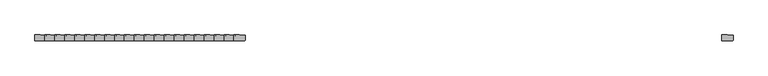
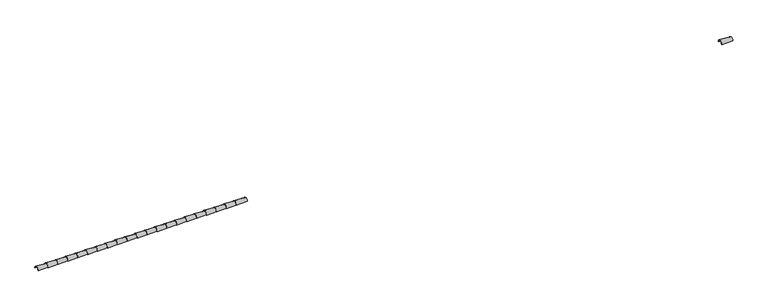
"""IFC4 building model written with IfcOpenShell, lengths in millimetres: proxy geometry, Tuile de faitage & aretier : Tuile de faitage & aretier."""

from ifc_helpers import new_model, si_unit, frame, origin, place, context, project, spatial, polyline, circle_curve, source, transform, mapped, element, save
from ifc_brep_helpers import plane_surface, revolved_surface, advanced_brep


def generic_models_be786a47(model_context):
    return source(origin(), model_context, "Body", "AdvancedBrep", [
        advanced_brep(
        [(7353.6231884, -80.0, 0.0), (7353.6231884, -70.0, 0.0), (7353.6231884, 70.0, 0.0), (7353.6231884, 80.0, 0.0), (6953.6231884, -100.0, 0.0), (6953.6231884, 100.0, 0.0), (6953.6231884, 90.0, 0.0), (6953.6231884, -90.0, 0.0)],
        [
            (0, 1),
            (1, 2, circle_curve(frame((7353.6231884, 0.0, 0.0), z_axis=(-1.0, 0.0, 0.0), x_axis=(0.0, -1.0, 0.0)), 70.0)),
            (2, 3),
            (3, 0, circle_curve(frame((7353.6231884, 0.0, 0.0), z_axis=(1.0, 0.0, 0.0), x_axis=(0.0, 1.0, 0.0)), 80.0)),
            (4, 5, circle_curve(frame((6953.6231884, 0.0, 0.0), z_axis=(-1.0, 0.0, 0.0), x_axis=(0.0, 1.0, 0.0)), 100.0)),
            (5, 6),
            (6, 7, circle_curve(frame((6953.6231884, 0.0, 0.0), z_axis=(1.0, 0.0, 0.0), x_axis=(0.0, -1.0, 0.0)), 90.0)),
            (7, 4),
            (7, 1),
            (0, 4),
            (6, 2),
            (5, 3),
        ],
        [
            plane_surface(frame((7353.6231884, 0.0, 0.0), z_axis=(1.0, 0.0, 0.0), x_axis=(0.0, 1.0, -1.4291631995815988e-12))),
            plane_surface(frame((6953.6231884, 0.0, 0.0), z_axis=(-1.0, 0.0, 0.0), x_axis=(0.0, 1.0, -1.4291631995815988e-12))),
            plane_surface(frame((6953.6231884, -95.0, 0.0), z_axis=(0.0, -1.4291631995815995e-12, -1.0), x_axis=(0.0, 1.0, -1.4291631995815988e-12))),
            revolved_surface(polyline([(6953.6231884, -90.0, 0.0), (7353.6231884, -70.00000000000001, 0.0)]), (8753.6231884, 0.0, 0.0), (-1.0, 0.0, 0.0)),
            plane_surface(frame((6953.6231884, 95.0, 0.0), z_axis=(0.0, 0.0, -1.0), x_axis=(0.0, 1.0, 0.0))),
            revolved_surface(polyline([(7353.6231884, 80.0, 0.0), (6953.6231884, 100.0, 0.0)]), (8953.6231884, 0.0, 0.0), (-1.0, 0.0, 0.0)),
        ],
        [
            (0, [[1, 2, 3, 4]]),
            (1, [[5, 6, 7, 8]]),
            (2, [[-8, 9, -1, 10]]),
            (3, [[-7, 11, -2, -9]]),
            (4, [[-6, 12, -3, -11]]),
            (5, [[-5, -10, -4, -12]]),
        ],
    ),
        advanced_brep(
        [(7005.942029, -80.0, 0.0), (7005.942029, -70.0, 0.0), (7005.942029, 70.0, 0.0), (7005.942029, 80.0, 0.0), (6605.942029, -100.0, 0.0), (6605.942029, 100.0, 0.0), (6605.942029, 90.0, 0.0), (6605.942029, -90.0, 0.0)],
        [
            (0, 1),
            (1, 2, circle_curve(frame((7005.942029, 0.0, 0.0), z_axis=(-1.0, 0.0, 0.0), x_axis=(0.0, -1.0, 0.0)), 70.0)),
            (2, 3),
            (3, 0, circle_curve(frame((7005.942029, 0.0, 0.0), z_axis=(1.0, 0.0, 0.0), x_axis=(0.0, 1.0, 0.0)), 80.0)),
            (4, 5, circle_curve(frame((6605.942029, 0.0, 0.0), z_axis=(-1.0, 0.0, 0.0), x_axis=(0.0, 1.0, 0.0)), 100.0)),
            (5, 6),
            (6, 7, circle_curve(frame((6605.942029, 0.0, 0.0), z_axis=(1.0, 0.0, 0.0), x_axis=(0.0, -1.0, 0.0)), 90.0)),
            (7, 4),
            (7, 1),
            (0, 4),
            (6, 2),
            (5, 3),
        ],
        [
            plane_surface(frame((7005.942029, 0.0, 0.0), z_axis=(1.0, 0.0, 0.0), x_axis=(0.0, 1.0, -1.4291631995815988e-12))),
            plane_surface(frame((6605.942029, 0.0, 0.0), z_axis=(-1.0, 0.0, 0.0), x_axis=(0.0, 1.0, -1.4291631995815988e-12))),
            plane_surface(frame((6605.942029, -95.0, 0.0), z_axis=(0.0, -1.4291631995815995e-12, -1.0), x_axis=(0.0, 1.0, -1.4291631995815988e-12))),
            revolved_surface(polyline([(6605.942029, -90.0, 0.0), (7005.942029, -70.0, 0.0)]), (8405.942029, 0.0, 0.0), (-1.0, 0.0, 0.0)),
            plane_surface(frame((6605.942029, 95.0, 0.0), z_axis=(0.0, 0.0, -1.0), x_axis=(0.0, 1.0, 0.0))),
            revolved_surface(polyline([(7005.942029, 80.0, 0.0), (6605.942029, 100.0, 0.0)]), (8605.942029, 0.0, 0.0), (-1.0, 0.0, 0.0)),
        ],
        [
            (0, [[1, 2, 3, 4]]),
            (1, [[5, 6, 7, 8]]),
            (2, [[-8, 9, -1, 10]]),
            (3, [[-7, 11, -2, -9]]),
            (4, [[-6, 12, -3, -11]]),
            (5, [[-5, -10, -4, -12]]),
        ],
    ),
        advanced_brep(
        [(6658.2608696, -80.0, 0.0), (6658.2608696, -70.0, 0.0), (6658.2608696, 70.0, 0.0), (6658.2608696, 80.0, 0.0), (6258.2608696, -100.0, 0.0), (6258.2608696, 100.0, 0.0), (6258.2608696, 90.0, 0.0), (6258.2608696, -90.0, 0.0)],
        [
            (0, 1),
            (1, 2, circle_curve(frame((6658.2608696, 0.0, 0.0), z_axis=(-1.0, 0.0, 0.0), x_axis=(0.0, -1.0, 0.0)), 70.0)),
            (2, 3),
            (3, 0, circle_curve(frame((6658.2608696, 0.0, 0.0), z_axis=(1.0, 0.0, 0.0), x_axis=(0.0, 1.0, 0.0)), 80.0)),
            (4, 5, circle_curve(frame((6258.2608696, 0.0, 0.0), z_axis=(-1.0, 0.0, 0.0), x_axis=(0.0, 1.0, 0.0)), 100.0)),
            (5, 6),
            (6, 7, circle_curve(frame((6258.2608696, 0.0, 0.0), z_axis=(1.0, 0.0, 0.0), x_axis=(0.0, -1.0, 0.0)), 90.0)),
            (7, 4),
            (7, 1),
            (0, 4),
            (6, 2),
            (5, 3),
        ],
        [
            plane_surface(frame((6658.2608696, 0.0, 0.0), z_axis=(1.0, 0.0, 0.0), x_axis=(0.0, 1.0, -1.4291631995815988e-12))),
            plane_surface(frame((6258.2608696, 0.0, 0.0), z_axis=(-1.0, 0.0, 0.0), x_axis=(0.0, 1.0, -1.4291631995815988e-12))),
            plane_surface(frame((6258.2608696, -95.0, 0.0), z_axis=(0.0, -1.4291631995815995e-12, -1.0), x_axis=(0.0, 1.0, -1.4291631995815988e-12))),
            revolved_surface(polyline([(6258.2608696, -90.0, 0.0), (6658.2608696, -70.0, 0.0)]), (8058.2608696, 0.0, 0.0), (-1.0, 0.0, 0.0)),
            plane_surface(frame((6258.2608696, 95.0, 0.0), z_axis=(0.0, 0.0, -1.0), x_axis=(0.0, 1.0, 0.0))),
            revolved_surface(polyline([(6658.2608696, 80.0, 0.0), (6258.2608696, 100.0, 0.0)]), (8258.2608696, 0.0, 0.0), (-1.0, 0.0, 0.0)),
        ],
        [
            (0, [[1, 2, 3, 4]]),
            (1, [[5, 6, 7, 8]]),
            (2, [[-8, 9, -1, 10]]),
            (3, [[-7, 11, -2, -9]]),
            (4, [[-6, 12, -3, -11]]),
            (5, [[-5, -10, -4, -12]]),
        ],
    ),
        advanced_brep(
        [(6310.5797101, -80.0, 0.0), (6310.5797101, -70.0, 0.0), (6310.5797101, 70.0, 0.0), (6310.5797101, 80.0, 0.0), (5910.5797101, -100.0, 0.0), (5910.5797101, 100.0, 0.0), (5910.5797101, 90.0, 0.0), (5910.5797101, -90.0, 0.0)],
        [
            (0, 1),
            (1, 2, circle_curve(frame((6310.5797101, 0.0, 0.0), z_axis=(-1.0, 0.0, 0.0), x_axis=(0.0, -1.0, 0.0)), 70.0)),
            (2, 3),
            (3, 0, circle_curve(frame((6310.5797101, 0.0, 0.0), z_axis=(1.0, 0.0, 0.0), x_axis=(0.0, 1.0, 0.0)), 80.0)),
            (4, 5, circle_curve(frame((5910.5797101, 0.0, 0.0), z_axis=(-1.0, 0.0, 0.0), x_axis=(0.0, 1.0, 0.0)), 100.0)),
            (5, 6),
            (6, 7, circle_curve(frame((5910.5797101, 0.0, 0.0), z_axis=(1.0, 0.0, 0.0), x_axis=(0.0, -1.0, 0.0)), 90.0)),
            (7, 4),
            (7, 1),
            (0, 4),
            (6, 2),
            (5, 3),
        ],
        [
            plane_surface(frame((6310.5797101, 0.0, 0.0), z_axis=(1.0, 0.0, 0.0), x_axis=(0.0, 1.0, -1.4291631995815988e-12))),
            plane_surface(frame((5910.5797101, 0.0, 0.0), z_axis=(-1.0, 0.0, 0.0), x_axis=(0.0, 1.0, -1.4291631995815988e-12))),
            plane_surface(frame((5910.5797101, -95.0, 0.0), z_axis=(0.0, -1.4291631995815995e-12, -1.0), x_axis=(0.0, 1.0, -1.4291631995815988e-12))),
            revolved_surface(polyline([(5910.5797101, -90.0, 0.0), (6310.5797101, -70.0, 0.0)]), (7710.5797101, 0.0, 0.0), (-1.0, 0.0, 0.0)),
            plane_surface(frame((5910.5797101, 95.0, 0.0), z_axis=(0.0, 0.0, -1.0), x_axis=(0.0, 1.0, 0.0))),
            revolved_surface(polyline([(6310.5797101, 80.0, 0.0), (5910.5797101, 100.0, 0.0)]), (7910.5797101, 0.0, 0.0), (-1.0, 0.0, 0.0)),
        ],
        [
            (0, [[1, 2, 3, 4]]),
            (1, [[5, 6, 7, 8]]),
            (2, [[-8, 9, -1, 10]]),
            (3, [[-7, 11, -2, -9]]),
            (4, [[-6, 12, -3, -11]]),
            (5, [[-5, -10, -4, -12]]),
        ],
    ),
        advanced_brep(
        [(5962.8985507, -80.0, 0.0), (5962.8985507, -70.0, 0.0), (5962.8985507, 70.0, 0.0), (5962.8985507, 80.0, 0.0), (5562.8985507, -100.0, 0.0), (5562.8985507, 100.0, 0.0), (5562.8985507, 90.0, 0.0), (5562.8985507, -90.0, 0.0)],
        [
            (0, 1),
            (1, 2, circle_curve(frame((5962.8985507, 0.0, 0.0), z_axis=(-1.0, 0.0, 0.0), x_axis=(0.0, -1.0, 0.0)), 70.0)),
            (2, 3),
            (3, 0, circle_curve(frame((5962.8985507, 0.0, 0.0), z_axis=(1.0, 0.0, 0.0), x_axis=(0.0, 1.0, 0.0)), 80.0)),
            (4, 5, circle_curve(frame((5562.8985507, 0.0, 0.0), z_axis=(-1.0, 0.0, 0.0), x_axis=(0.0, 1.0, 0.0)), 100.0)),
            (5, 6),
            (6, 7, circle_curve(frame((5562.8985507, 0.0, 0.0), z_axis=(1.0, 0.0, 0.0), x_axis=(0.0, -1.0, 0.0)), 90.0)),
            (7, 4),
            (7, 1),
            (0, 4),
            (6, 2),
            (5, 3),
        ],
        [
            plane_surface(frame((5962.8985507, 0.0, 0.0), z_axis=(1.0, 0.0, 0.0), x_axis=(0.0, 1.0, -1.4291631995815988e-12))),
            plane_surface(frame((5562.8985507, 0.0, 0.0), z_axis=(-1.0, 0.0, 0.0), x_axis=(0.0, 1.0, -1.4291631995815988e-12))),
            plane_surface(frame((5562.8985507, -95.0, 0.0), z_axis=(0.0, -1.4291631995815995e-12, -1.0), x_axis=(0.0, 1.0, -1.4291631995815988e-12))),
            revolved_surface(polyline([(5562.8985507, -90.0, 0.0), (5962.8985507, -70.0, 0.0)]), (7362.8985507, 0.0, 0.0), (-1.0, 0.0, 0.0)),
            plane_surface(frame((5562.8985507, 95.0, 0.0), z_axis=(0.0, 0.0, -1.0), x_axis=(0.0, 1.0, 0.0))),
            revolved_surface(polyline([(5962.8985507, 80.0, 0.0), (5562.8985507, 100.0, 0.0)]), (7562.8985507, 0.0, 0.0), (-1.0, 0.0, 0.0)),
        ],
        [
            (0, [[1, 2, 3, 4]]),
            (1, [[5, 6, 7, 8]]),
            (2, [[-8, 9, -1, 10]]),
            (3, [[-7, 11, -2, -9]]),
            (4, [[-6, 12, -3, -11]]),
            (5, [[-5, -10, -4, -12]]),
        ],
    ),
        advanced_brep(
        [(5615.2173913, -80.0, 0.0), (5615.2173913, -70.0, 0.0), (5615.2173913, 70.0, 0.0), (5615.2173913, 80.0, 0.0), (5215.2173913, -100.0, 0.0), (5215.2173913, 100.0, 0.0), (5215.2173913, 90.0, 0.0), (5215.2173913, -90.0, 0.0)],
        [
            (0, 1),
            (1, 2, circle_curve(frame((5615.2173913, 0.0, 0.0), z_axis=(-1.0, 0.0, 0.0), x_axis=(0.0, -1.0, 0.0)), 70.0)),
            (2, 3),
            (3, 0, circle_curve(frame((5615.2173913, 0.0, 0.0), z_axis=(1.0, 0.0, 0.0), x_axis=(0.0, 1.0, 0.0)), 80.0)),
            (4, 5, circle_curve(frame((5215.2173913, 0.0, 0.0), z_axis=(-1.0, 0.0, 0.0), x_axis=(0.0, 1.0, 0.0)), 100.0)),
            (5, 6),
            (6, 7, circle_curve(frame((5215.2173913, 0.0, 0.0), z_axis=(1.0, 0.0, 0.0), x_axis=(0.0, -1.0, 0.0)), 90.0)),
            (7, 4),
            (7, 1),
            (0, 4),
            (6, 2),
            (5, 3),
        ],
        [
            plane_surface(frame((5615.2173913, 0.0, 0.0), z_axis=(1.0, 0.0, 0.0), x_axis=(0.0, 1.0, -1.4291631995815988e-12))),
            plane_surface(frame((5215.2173913, 0.0, 0.0), z_axis=(-1.0, 0.0, 0.0), x_axis=(0.0, 1.0, -1.4291631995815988e-12))),
            plane_surface(frame((5215.2173913, -95.0, 0.0), z_axis=(0.0, -1.4291631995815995e-12, -1.0), x_axis=(0.0, 1.0, -1.4291631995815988e-12))),
            revolved_surface(polyline([(5215.2173913, -90.0, 0.0), (5615.2173913, -70.0, 0.0)]), (7015.2173913, 0.0, 0.0), (-1.0, 0.0, 0.0)),
            plane_surface(frame((5215.2173913, 95.0, 0.0), z_axis=(0.0, 0.0, -1.0), x_axis=(0.0, 1.0, 0.0))),
            revolved_surface(polyline([(5615.2173913, 80.0, 0.0), (5215.2173913, 100.0, 0.0)]), (7215.2173913, 0.0, 0.0), (-1.0, 0.0, 0.0)),
        ],
        [
            (0, [[1, 2, 3, 4]]),
            (1, [[5, 6, 7, 8]]),
            (2, [[-8, 9, -1, 10]]),
            (3, [[-7, 11, -2, -9]]),
            (4, [[-6, 12, -3, -11]]),
            (5, [[-5, -10, -4, -12]]),
        ],
    ),
        advanced_brep(
        [(5267.5362319, -80.0, 0.0), (5267.5362319, -70.0, 0.0), (5267.5362319, 70.0, 0.0), (5267.5362319, 80.0, 0.0), (4867.5362319, -100.0, 0.0), (4867.5362319, 100.0, 0.0), (4867.5362319, 90.0, 0.0), (4867.5362319, -90.0, 0.0)],
        [
            (0, 1),
            (1, 2, circle_curve(frame((5267.5362319, 0.0, 0.0), z_axis=(-1.0, 0.0, 0.0), x_axis=(0.0, -1.0, 0.0)), 70.0)),
            (2, 3),
            (3, 0, circle_curve(frame((5267.5362319, 0.0, 0.0), z_axis=(1.0, 0.0, 0.0), x_axis=(0.0, 1.0, 0.0)), 80.0)),
            (4, 5, circle_curve(frame((4867.5362319, 0.0, 0.0), z_axis=(-1.0, 0.0, 0.0), x_axis=(0.0, 1.0, 0.0)), 100.0)),
            (5, 6),
            (6, 7, circle_curve(frame((4867.5362319, 0.0, 0.0), z_axis=(1.0, 0.0, 0.0), x_axis=(0.0, -1.0, 0.0)), 90.0)),
            (7, 4),
            (7, 1),
            (0, 4),
            (6, 2),
            (5, 3),
        ],
        [
            plane_surface(frame((5267.5362319, 0.0, 0.0), z_axis=(1.0, 0.0, 0.0), x_axis=(0.0, 1.0, -1.4291631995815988e-12))),
            plane_surface(frame((4867.5362319, 0.0, 0.0), z_axis=(-1.0, 0.0, 0.0), x_axis=(0.0, 1.0, -1.4291631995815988e-12))),
            plane_surface(frame((4867.5362319, -95.0, 0.0), z_axis=(0.0, -1.4291631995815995e-12, -1.0), x_axis=(0.0, 1.0, -1.4291631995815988e-12))),
            revolved_surface(polyline([(4867.5362319, -90.0, 0.0), (5267.5362319, -70.0, 0.0)]), (6667.5362319, 0.0, 0.0), (-1.0, 0.0, 0.0)),
            plane_surface(frame((4867.5362319, 95.0, 0.0), z_axis=(0.0, 0.0, -1.0), x_axis=(0.0, 1.0, 0.0))),
            revolved_surface(polyline([(5267.5362319, 80.0, 0.0), (4867.5362319, 100.0, 0.0)]), (6867.5362319, 0.0, 0.0), (-1.0, 0.0, 0.0)),
        ],
        [
            (0, [[1, 2, 3, 4]]),
            (1, [[5, 6, 7, 8]]),
            (2, [[-8, 9, -1, 10]]),
            (3, [[-7, 11, -2, -9]]),
            (4, [[-6, 12, -3, -11]]),
            (5, [[-5, -10, -4, -12]]),
        ],
    ),
        advanced_brep(
        [(4919.8550725, -80.0, 0.0), (4919.8550725, -70.0, 0.0), (4919.8550725, 70.0, 0.0), (4919.8550725, 80.0, 0.0), (4519.8550725, -100.0, 0.0), (4519.8550725, 100.0, 0.0), (4519.8550725, 90.0, 0.0), (4519.8550725, -90.0, 0.0)],
        [
            (0, 1),
            (1, 2, circle_curve(frame((4919.8550725, 0.0, 0.0), z_axis=(-1.0, 0.0, 0.0), x_axis=(0.0, -1.0, 0.0)), 70.0)),
            (2, 3),
            (3, 0, circle_curve(frame((4919.8550725, 0.0, 0.0), z_axis=(1.0, 0.0, 0.0), x_axis=(0.0, 1.0, 0.0)), 80.0)),
            (4, 5, circle_curve(frame((4519.8550725, 0.0, 0.0), z_axis=(-1.0, 0.0, 0.0), x_axis=(0.0, 1.0, 0.0)), 100.0)),
            (5, 6),
            (6, 7, circle_curve(frame((4519.8550725, 0.0, 0.0), z_axis=(1.0, 0.0, 0.0), x_axis=(0.0, -1.0, 0.0)), 90.0)),
            (7, 4),
            (7, 1),
            (0, 4),
            (6, 2),
            (5, 3),
        ],
        [
            plane_surface(frame((4919.8550725, 0.0, 0.0), z_axis=(1.0, 0.0, 0.0), x_axis=(0.0, 1.0, -1.4291631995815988e-12))),
            plane_surface(frame((4519.8550725, 0.0, 0.0), z_axis=(-1.0, 0.0, 0.0), x_axis=(0.0, 1.0, -1.4291631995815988e-12))),
            plane_surface(frame((4519.8550725, -95.0, 0.0), z_axis=(0.0, -1.4291631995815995e-12, -1.0), x_axis=(0.0, 1.0, -1.4291631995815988e-12))),
            revolved_surface(polyline([(4519.8550725, -90.0, 0.0), (4919.8550725, -70.0, 0.0)]), (6319.8550725, 0.0, 0.0), (-1.0, 0.0, 0.0)),
            plane_surface(frame((4519.8550725, 95.0, 0.0), z_axis=(0.0, 0.0, -1.0), x_axis=(0.0, 1.0, 0.0))),
            revolved_surface(polyline([(4919.8550725, 80.0, 0.0), (4519.8550725, 100.0, 0.0)]), (6519.8550725, 0.0, 0.0), (-1.0, 0.0, 0.0)),
        ],
        [
            (0, [[1, 2, 3, 4]]),
            (1, [[5, 6, 7, 8]]),
            (2, [[-8, 9, -1, 10]]),
            (3, [[-7, 11, -2, -9]]),
            (4, [[-6, 12, -3, -11]]),
            (5, [[-5, -10, -4, -12]]),
        ],
    ),
        advanced_brep(
        [(4572.173913, -80.0, 0.0), (4572.173913, -70.0, 0.0), (4572.173913, 70.0, 0.0), (4572.173913, 80.0, 0.0), (4172.173913, -100.0, 0.0), (4172.173913, 100.0, 0.0), (4172.173913, 90.0, 0.0), (4172.173913, -90.0, 0.0)],
        [
            (0, 1),
            (1, 2, circle_curve(frame((4572.173913, 0.0, 0.0), z_axis=(-1.0, 0.0, 0.0), x_axis=(0.0, -1.0, 0.0)), 70.0)),
            (2, 3),
            (3, 0, circle_curve(frame((4572.173913, 0.0, 0.0), z_axis=(1.0, 0.0, 0.0), x_axis=(0.0, 1.0, 0.0)), 80.0)),
            (4, 5, circle_curve(frame((4172.173913, 0.0, 0.0), z_axis=(-1.0, 0.0, 0.0), x_axis=(0.0, 1.0, 0.0)), 100.0)),
            (5, 6),
            (6, 7, circle_curve(frame((4172.173913, 0.0, 0.0), z_axis=(1.0, 0.0, 0.0), x_axis=(0.0, -1.0, 0.0)), 90.0)),
            (7, 4),
            (7, 1),
            (0, 4),
            (6, 2),
            (5, 3),
        ],
        [
            plane_surface(frame((4572.173913, 0.0, 0.0), z_axis=(1.0, 0.0, 0.0), x_axis=(0.0, 1.0, -1.4291631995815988e-12))),
            plane_surface(frame((4172.173913, 0.0, 0.0), z_axis=(-1.0, 0.0, 0.0), x_axis=(0.0, 1.0, -1.4291631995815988e-12))),
            plane_surface(frame((4172.173913, -95.0, 0.0), z_axis=(0.0, -1.4291631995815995e-12, -1.0), x_axis=(0.0, 1.0, -1.4291631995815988e-12))),
            revolved_surface(polyline([(4172.173913, -90.0, 0.0), (4572.173913, -70.0, 0.0)]), (5972.173913, 0.0, 0.0), (-1.0, 0.0, 0.0)),
            plane_surface(frame((4172.173913, 95.0, 0.0), z_axis=(0.0, 0.0, -1.0), x_axis=(0.0, 1.0, 0.0))),
            revolved_surface(polyline([(4572.173913, 80.0, 0.0), (4172.173913, 100.0, 0.0)]), (6172.173913, 0.0, 0.0), (-1.0, 0.0, 0.0)),
        ],
        [
            (0, [[1, 2, 3, 4]]),
            (1, [[5, 6, 7, 8]]),
            (2, [[-8, 9, -1, 10]]),
            (3, [[-7, 11, -2, -9]]),
            (4, [[-6, 12, -3, -11]]),
            (5, [[-5, -10, -4, -12]]),
        ],
    ),
        advanced_brep(
        [(4224.4927536, -80.0, 0.0), (4224.4927536, -70.0, 0.0), (4224.4927536, 70.0, 0.0), (4224.4927536, 80.0, 0.0), (3824.4927536, -100.0, 0.0), (3824.4927536, 100.0, 0.0), (3824.4927536, 90.0, 0.0), (3824.4927536, -90.0, 0.0)],
        [
            (0, 1),
            (1, 2, circle_curve(frame((4224.4927536, 0.0, 0.0), z_axis=(-1.0, 0.0, 0.0), x_axis=(0.0, -1.0, 0.0)), 70.0)),
            (2, 3),
            (3, 0, circle_curve(frame((4224.4927536, 0.0, 0.0), z_axis=(1.0, 0.0, 0.0), x_axis=(0.0, 1.0, 0.0)), 80.0)),
            (4, 5, circle_curve(frame((3824.4927536, 0.0, 0.0), z_axis=(-1.0, 0.0, 0.0), x_axis=(0.0, 1.0, 0.0)), 100.0)),
            (5, 6),
            (6, 7, circle_curve(frame((3824.4927536, 0.0, 0.0), z_axis=(1.0, 0.0, 0.0), x_axis=(0.0, -1.0, 0.0)), 90.0)),
            (7, 4),
            (7, 1),
            (0, 4),
            (6, 2),
            (5, 3),
        ],
        [
            plane_surface(frame((4224.4927536, 0.0, 0.0), z_axis=(1.0, 0.0, 0.0), x_axis=(0.0, 1.0, -1.4291631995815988e-12))),
            plane_surface(frame((3824.4927536, 0.0, 0.0), z_axis=(-1.0, 0.0, 0.0), x_axis=(0.0, 1.0, -1.4291631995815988e-12))),
            plane_surface(frame((3824.4927536, -95.0, 0.0), z_axis=(0.0, -1.4291631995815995e-12, -1.0), x_axis=(0.0, 1.0, -1.4291631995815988e-12))),
            revolved_surface(polyline([(3824.4927536, -90.0, 0.0), (4224.4927536, -70.00000000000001, 0.0)]), (5624.4927536, 0.0, 0.0), (-1.0, 0.0, 0.0)),
            plane_surface(frame((3824.4927536, 95.0, 0.0), z_axis=(0.0, 0.0, -1.0), x_axis=(0.0, 1.0, 0.0))),
            revolved_surface(polyline([(4224.4927536, 80.00000000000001, 0.0), (3824.4927536, 100.0, 0.0)]), (5824.4927536, 0.0, 0.0), (-1.0, 0.0, 0.0)),
        ],
        [
            (0, [[1, 2, 3, 4]]),
            (1, [[5, 6, 7, 8]]),
            (2, [[-8, 9, -1, 10]]),
            (3, [[-7, 11, -2, -9]]),
            (4, [[-6, 12, -3, -11]]),
            (5, [[-5, -10, -4, -12]]),
        ],
    ),
        advanced_brep(
        [(3876.8115942, -80.0, 0.0), (3876.8115942, -70.0, 0.0), (3876.8115942, 70.0, 0.0), (3876.8115942, 80.0, 0.0), (3476.8115942, -100.0, 0.0), (3476.8115942, 100.0, 0.0), (3476.8115942, 90.0, 0.0), (3476.8115942, -90.0, 0.0)],
        [
            (0, 1),
            (1, 2, circle_curve(frame((3876.8115942, 0.0, 0.0), z_axis=(-1.0, 0.0, 0.0), x_axis=(0.0, -1.0, 0.0)), 70.0)),
            (2, 3),
            (3, 0, circle_curve(frame((3876.8115942, 0.0, 0.0), z_axis=(1.0, 0.0, 0.0), x_axis=(0.0, 1.0, 0.0)), 80.0)),
            (4, 5, circle_curve(frame((3476.8115942, 0.0, 0.0), z_axis=(-1.0, 0.0, 0.0), x_axis=(0.0, 1.0, 0.0)), 100.0)),
            (5, 6),
            (6, 7, circle_curve(frame((3476.8115942, 0.0, 0.0), z_axis=(1.0, 0.0, 0.0), x_axis=(0.0, -1.0, 0.0)), 90.0)),
            (7, 4),
            (7, 1),
            (0, 4),
            (6, 2),
            (5, 3),
        ],
        [
            plane_surface(frame((3876.8115942, 0.0, 0.0), z_axis=(1.0, 0.0, 0.0), x_axis=(0.0, 1.0, -1.4291631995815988e-12))),
            plane_surface(frame((3476.8115942, 0.0, 0.0), z_axis=(-1.0, 0.0, 0.0), x_axis=(0.0, 1.0, -1.4291631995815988e-12))),
            plane_surface(frame((3476.8115942, -95.0, 0.0), z_axis=(0.0, -1.4291631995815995e-12, -1.0), x_axis=(0.0, 1.0, -1.4291631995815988e-12))),
            revolved_surface(polyline([(3476.8115942, -90.0, 0.0), (3876.8115942, -70.0, 0.0)]), (5276.8115942, 0.0, 0.0), (-1.0, 0.0, 0.0)),
            plane_surface(frame((3476.8115942, 95.0, 0.0), z_axis=(0.0, 0.0, -1.0), x_axis=(0.0, 1.0, 0.0))),
            revolved_surface(polyline([(3876.8115942, 80.0, 0.0), (3476.8115942, 100.0, 0.0)]), (5476.8115942, 0.0, 0.0), (-1.0, 0.0, 0.0)),
        ],
        [
            (0, [[1, 2, 3, 4]]),
            (1, [[5, 6, 7, 8]]),
            (2, [[-8, 9, -1, 10]]),
            (3, [[-7, 11, -2, -9]]),
            (4, [[-6, 12, -3, -11]]),
            (5, [[-5, -10, -4, -12]]),
        ],
    ),
        advanced_brep(
        [(3529.1304348, -80.0, 0.0), (3529.1304348, -70.0, 0.0), (3529.1304348, 70.0, 0.0), (3529.1304348, 80.0, 0.0), (3129.1304348, -100.0, 0.0), (3129.1304348, 100.0, 0.0), (3129.1304348, 90.0, 0.0), (3129.1304348, -90.0, 0.0)],
        [
            (0, 1),
            (1, 2, circle_curve(frame((3529.1304348, 0.0, 0.0), z_axis=(-1.0, 0.0, 0.0), x_axis=(0.0, -1.0, 0.0)), 70.0)),
            (2, 3),
            (3, 0, circle_curve(frame((3529.1304348, 0.0, 0.0), z_axis=(1.0, 0.0, 0.0), x_axis=(0.0, 1.0, 0.0)), 80.0)),
            (4, 5, circle_curve(frame((3129.1304348, 0.0, 0.0), z_axis=(-1.0, 0.0, 0.0), x_axis=(0.0, 1.0, 0.0)), 100.0)),
            (5, 6),
            (6, 7, circle_curve(frame((3129.1304348, 0.0, 0.0), z_axis=(1.0, 0.0, 0.0), x_axis=(0.0, -1.0, 0.0)), 90.0)),
            (7, 4),
            (7, 1),
            (0, 4),
            (6, 2),
            (5, 3),
        ],
        [
            plane_surface(frame((3529.1304348, 0.0, 0.0), z_axis=(1.0, 0.0, 0.0), x_axis=(0.0, 1.0, -1.4291631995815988e-12))),
            plane_surface(frame((3129.1304348, 0.0, 0.0), z_axis=(-1.0, 0.0, 0.0), x_axis=(0.0, 1.0, -1.4291631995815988e-12))),
            plane_surface(frame((3129.1304348, -95.0, 0.0), z_axis=(0.0, -1.4291631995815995e-12, -1.0), x_axis=(0.0, 1.0, -1.4291631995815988e-12))),
            revolved_surface(polyline([(3129.1304348, -90.0, 0.0), (3529.1304348, -70.0, 0.0)]), (4929.1304348, 0.0, 0.0), (-1.0, 0.0, 0.0)),
            plane_surface(frame((3129.1304348, 95.0, 0.0), z_axis=(0.0, 0.0, -1.0), x_axis=(0.0, 1.0, 0.0))),
            revolved_surface(polyline([(3529.1304348, 80.0, 0.0), (3129.1304348, 100.0, 0.0)]), (5129.1304348, 0.0, 0.0), (-1.0, 0.0, 0.0)),
        ],
        [
            (0, [[1, 2, 3, 4]]),
            (1, [[5, 6, 7, 8]]),
            (2, [[-8, 9, -1, 10]]),
            (3, [[-7, 11, -2, -9]]),
            (4, [[-6, 12, -3, -11]]),
            (5, [[-5, -10, -4, -12]]),
        ],
    ),
        advanced_brep(
        [(3181.4492754, -80.0, 0.0), (3181.4492754, -70.0, 0.0), (3181.4492754, 70.0, 0.0), (3181.4492754, 80.0, 0.0), (2781.4492754, -100.0, 0.0), (2781.4492754, 100.0, 0.0), (2781.4492754, 90.0, 0.0), (2781.4492754, -90.0, 0.0)],
        [
            (0, 1),
            (1, 2, circle_curve(frame((3181.4492754, 0.0, 0.0), z_axis=(-1.0, 0.0, 0.0), x_axis=(0.0, -1.0, 0.0)), 70.0)),
            (2, 3),
            (3, 0, circle_curve(frame((3181.4492754, 0.0, 0.0), z_axis=(1.0, 0.0, 0.0), x_axis=(0.0, 1.0, 0.0)), 80.0)),
            (4, 5, circle_curve(frame((2781.4492754, 0.0, 0.0), z_axis=(-1.0, 0.0, 0.0), x_axis=(0.0, 1.0, 0.0)), 100.0)),
            (5, 6),
            (6, 7, circle_curve(frame((2781.4492754, 0.0, 0.0), z_axis=(1.0, 0.0, 0.0), x_axis=(0.0, -1.0, 0.0)), 90.0)),
            (7, 4),
            (7, 1),
            (0, 4),
            (6, 2),
            (5, 3),
        ],
        [
            plane_surface(frame((3181.4492754, 0.0, 0.0), z_axis=(1.0, 0.0, 0.0), x_axis=(0.0, 1.0, -1.4291631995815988e-12))),
            plane_surface(frame((2781.4492754, 0.0, 0.0), z_axis=(-1.0, 0.0, 0.0), x_axis=(0.0, 1.0, -1.4291631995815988e-12))),
            plane_surface(frame((2781.4492754, -95.0, 0.0), z_axis=(0.0, -1.4291631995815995e-12, -1.0), x_axis=(0.0, 1.0, -1.4291631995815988e-12))),
            revolved_surface(polyline([(2781.4492754, -90.0, 0.0), (3181.4492754, -70.0, 0.0)]), (4581.4492754, 0.0, 0.0), (-1.0, 0.0, 0.0)),
            plane_surface(frame((2781.4492754, 95.0, 0.0), z_axis=(0.0, 0.0, -1.0), x_axis=(0.0, 1.0, 0.0))),
            revolved_surface(polyline([(3181.4492754, 80.0, 0.0), (2781.4492754, 100.0, 0.0)]), (4781.4492754, 0.0, 0.0), (-1.0, 0.0, 0.0)),
        ],
        [
            (0, [[1, 2, 3, 4]]),
            (1, [[5, 6, 7, 8]]),
            (2, [[-8, 9, -1, 10]]),
            (3, [[-7, 11, -2, -9]]),
            (4, [[-6, 12, -3, -11]]),
            (5, [[-5, -10, -4, -12]]),
        ],
    ),
        advanced_brep(
        [(2833.7681159, -80.0, 0.0), (2833.7681159, -70.0, 0.0), (2833.7681159, 70.0, 0.0), (2833.7681159, 80.0, 0.0), (2433.7681159, -100.0, 0.0), (2433.7681159, 100.0, 0.0), (2433.7681159, 90.0, 0.0), (2433.7681159, -90.0, 0.0)],
        [
            (0, 1),
            (1, 2, circle_curve(frame((2833.7681159, 0.0, 0.0), z_axis=(-1.0, 0.0, 0.0), x_axis=(0.0, -1.0, 0.0)), 70.0)),
            (2, 3),
            (3, 0, circle_curve(frame((2833.7681159, 0.0, 0.0), z_axis=(1.0, 0.0, 0.0), x_axis=(0.0, 1.0, 0.0)), 80.0)),
            (4, 5, circle_curve(frame((2433.7681159, 0.0, 0.0), z_axis=(-1.0, 0.0, 0.0), x_axis=(0.0, 1.0, 0.0)), 100.0)),
            (5, 6),
            (6, 7, circle_curve(frame((2433.7681159, 0.0, 0.0), z_axis=(1.0, 0.0, 0.0), x_axis=(0.0, -1.0, 0.0)), 90.0)),
            (7, 4),
            (7, 1),
            (0, 4),
            (6, 2),
            (5, 3),
        ],
        [
            plane_surface(frame((2833.7681159, 0.0, 0.0), z_axis=(1.0, 0.0, 0.0), x_axis=(0.0, 1.0, -1.4291631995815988e-12))),
            plane_surface(frame((2433.7681159, 0.0, 0.0), z_axis=(-1.0, 0.0, 0.0), x_axis=(0.0, 1.0, -1.4291631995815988e-12))),
            plane_surface(frame((2433.7681159, -95.0, 0.0), z_axis=(0.0, -1.4291631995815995e-12, -1.0), x_axis=(0.0, 1.0, -1.4291631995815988e-12))),
            revolved_surface(polyline([(2433.7681159, -90.0, 0.0), (2833.7681159, -70.0, 0.0)]), (4233.7681159, 0.0, 0.0), (-1.0, 0.0, 0.0)),
            plane_surface(frame((2433.7681159, 95.0, 0.0), z_axis=(0.0, 0.0, -1.0), x_axis=(0.0, 1.0, 0.0))),
            revolved_surface(polyline([(2833.7681159, 80.0, 0.0), (2433.7681159, 100.0, 0.0)]), (4433.7681159, 0.0, 0.0), (-1.0, 0.0, 0.0)),
        ],
        [
            (0, [[1, 2, 3, 4]]),
            (1, [[5, 6, 7, 8]]),
            (2, [[-8, 9, -1, 10]]),
            (3, [[-7, 11, -2, -9]]),
            (4, [[-6, 12, -3, -11]]),
            (5, [[-5, -10, -4, -12]]),
        ],
    ),
        advanced_brep(
        [(2486.0869565, -80.0, 0.0), (2486.0869565, -70.0, 0.0), (2486.0869565, 70.0, 0.0), (2486.0869565, 80.0, 0.0), (2086.0869565, -100.0, 0.0), (2086.0869565, 100.0, 0.0), (2086.0869565, 90.0, 0.0), (2086.0869565, -90.0, 0.0)],
        [
            (0, 1),
            (1, 2, circle_curve(frame((2486.0869565, 0.0, 0.0), z_axis=(-1.0, 0.0, 0.0), x_axis=(0.0, -1.0, 0.0)), 70.0)),
            (2, 3),
            (3, 0, circle_curve(frame((2486.0869565, 0.0, 0.0), z_axis=(1.0, 0.0, 0.0), x_axis=(0.0, 1.0, 0.0)), 80.0)),
            (4, 5, circle_curve(frame((2086.0869565, 0.0, 0.0), z_axis=(-1.0, 0.0, 0.0), x_axis=(0.0, 1.0, 0.0)), 100.0)),
            (5, 6),
            (6, 7, circle_curve(frame((2086.0869565, 0.0, 0.0), z_axis=(1.0, 0.0, 0.0), x_axis=(0.0, -1.0, 0.0)), 90.0)),
            (7, 4),
            (7, 1),
            (0, 4),
            (6, 2),
            (5, 3),
        ],
        [
            plane_surface(frame((2486.0869565, 0.0, 0.0), z_axis=(1.0, 0.0, 0.0), x_axis=(0.0, 1.0, -1.4291631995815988e-12))),
            plane_surface(frame((2086.0869565, 0.0, 0.0), z_axis=(-1.0, 0.0, 0.0), x_axis=(0.0, 1.0, -1.4291631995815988e-12))),
            plane_surface(frame((2086.0869565, -95.0, 0.0), z_axis=(0.0, -1.4291631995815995e-12, -1.0), x_axis=(0.0, 1.0, -1.4291631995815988e-12))),
            revolved_surface(polyline([(2086.0869565, -90.0, 0.0), (2486.0869565, -70.0, 0.0)]), (3886.0869565, 0.0, 0.0), (-1.0, 0.0, 0.0)),
            plane_surface(frame((2086.0869565, 95.0, 0.0), z_axis=(0.0, 0.0, -1.0), x_axis=(0.0, 1.0, 0.0))),
            revolved_surface(polyline([(2486.0869565, 80.0, 0.0), (2086.0869565, 100.0, 0.0)]), (4086.0869565, 0.0, 0.0), (-1.0, 0.0, 0.0)),
        ],
        [
            (0, [[1, 2, 3, 4]]),
            (1, [[5, 6, 7, 8]]),
            (2, [[-8, 9, -1, 10]]),
            (3, [[-7, 11, -2, -9]]),
            (4, [[-6, 12, -3, -11]]),
            (5, [[-5, -10, -4, -12]]),
        ],
    ),
        advanced_brep(
        [(2138.4057971, -80.0, 0.0), (2138.4057971, -70.0, 0.0), (2138.4057971, 70.0, 0.0), (2138.4057971, 80.0, 0.0), (1738.4057971, -100.0, 0.0), (1738.4057971, 100.0, 0.0), (1738.4057971, 90.0, 0.0), (1738.4057971, -90.0, 0.0)],
        [
            (0, 1),
            (1, 2, circle_curve(frame((2138.4057971, 0.0, 0.0), z_axis=(-1.0, 0.0, 0.0), x_axis=(0.0, -1.0, 0.0)), 70.0)),
            (2, 3),
            (3, 0, circle_curve(frame((2138.4057971, 0.0, 0.0), z_axis=(1.0, 0.0, 0.0), x_axis=(0.0, 1.0, 0.0)), 80.0)),
            (4, 5, circle_curve(frame((1738.4057971, 0.0, 0.0), z_axis=(-1.0, 0.0, 0.0), x_axis=(0.0, 1.0, 0.0)), 100.0)),
            (5, 6),
            (6, 7, circle_curve(frame((1738.4057971, 0.0, 0.0), z_axis=(1.0, 0.0, 0.0), x_axis=(0.0, -1.0, 0.0)), 90.0)),
            (7, 4),
            (7, 1),
            (0, 4),
            (6, 2),
            (5, 3),
        ],
        [
            plane_surface(frame((2138.4057971, 0.0, 0.0), z_axis=(1.0, 0.0, 0.0), x_axis=(0.0, 1.0, -1.4291631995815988e-12))),
            plane_surface(frame((1738.4057971, 0.0, 0.0), z_axis=(-1.0, 0.0, 0.0), x_axis=(0.0, 1.0, -1.4291631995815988e-12))),
            plane_surface(frame((1738.4057971, -95.0, 0.0), z_axis=(0.0, -1.4291631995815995e-12, -1.0), x_axis=(0.0, 1.0, -1.4291631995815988e-12))),
            revolved_surface(polyline([(1738.4057971, -90.0, 0.0), (2138.4057971, -69.99999999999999, 0.0)]), (3538.4057971, 0.0, 0.0), (-1.0, 0.0, 0.0)),
            plane_surface(frame((1738.4057971, 95.0, 0.0), z_axis=(0.0, 0.0, -1.0), x_axis=(0.0, 1.0, 0.0))),
            revolved_surface(polyline([(2138.4057971, 80.0, 0.0), (1738.4057971, 100.0, 0.0)]), (3738.4057971, 0.0, 0.0), (-1.0, 0.0, 0.0)),
        ],
        [
            (0, [[1, 2, 3, 4]]),
            (1, [[5, 6, 7, 8]]),
            (2, [[-8, 9, -1, 10]]),
            (3, [[-7, 11, -2, -9]]),
            (4, [[-6, 12, -3, -11]]),
            (5, [[-5, -10, -4, -12]]),
        ],
    ),
        advanced_brep(
        [(1790.7246377, -80.0, 0.0), (1790.7246377, -70.0, 0.0), (1790.7246377, 70.0, 0.0), (1790.7246377, 80.0, 0.0), (1390.7246377, -100.0, 0.0), (1390.7246377, 100.0, 0.0), (1390.7246377, 90.0, 0.0), (1390.7246377, -90.0, 0.0)],
        [
            (0, 1),
            (1, 2, circle_curve(frame((1790.7246377, 0.0, 0.0), z_axis=(-1.0, 0.0, 0.0), x_axis=(0.0, -1.0, 0.0)), 70.0)),
            (2, 3),
            (3, 0, circle_curve(frame((1790.7246377, 0.0, 0.0), z_axis=(1.0, 0.0, 0.0), x_axis=(0.0, 1.0, 0.0)), 80.0)),
            (4, 5, circle_curve(frame((1390.7246377, 0.0, 0.0), z_axis=(-1.0, 0.0, 0.0), x_axis=(0.0, 1.0, 0.0)), 100.0)),
            (5, 6),
            (6, 7, circle_curve(frame((1390.7246377, 0.0, 0.0), z_axis=(1.0, 0.0, 0.0), x_axis=(0.0, -1.0, 0.0)), 90.0)),
            (7, 4),
            (7, 1),
            (0, 4),
            (6, 2),
            (5, 3),
        ],
        [
            plane_surface(frame((1790.7246377, 0.0, 0.0), z_axis=(1.0, 0.0, 0.0), x_axis=(0.0, 1.0, -1.4291631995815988e-12))),
            plane_surface(frame((1390.7246377, 0.0, 0.0), z_axis=(-1.0, 0.0, 0.0), x_axis=(0.0, 1.0, -1.4291631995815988e-12))),
            plane_surface(frame((1390.7246377, -95.0, 0.0), z_axis=(0.0, -1.4291631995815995e-12, -1.0), x_axis=(0.0, 1.0, -1.4291631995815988e-12))),
            revolved_surface(polyline([(1390.7246377, -90.0, 0.0), (1790.7246377, -70.0, 0.0)]), (3190.7246377, 0.0, 0.0), (-1.0, 0.0, 0.0)),
            plane_surface(frame((1390.7246377, 95.0, 0.0), z_axis=(0.0, 0.0, -1.0), x_axis=(0.0, 1.0, 0.0))),
            revolved_surface(polyline([(1790.7246377, 80.0, 0.0), (1390.7246377, 100.0, 0.0)]), (3390.7246377, 0.0, 0.0), (-1.0, 0.0, 0.0)),
        ],
        [
            (0, [[1, 2, 3, 4]]),
            (1, [[5, 6, 7, 8]]),
            (2, [[-8, 9, -1, 10]]),
            (3, [[-7, 11, -2, -9]]),
            (4, [[-6, 12, -3, -11]]),
            (5, [[-5, -10, -4, -12]]),
        ],
    ),
        advanced_brep(
        [(1443.0434783, -80.0, 0.0), (1443.0434783, -70.0, 0.0), (1443.0434783, 70.0, 0.0), (1443.0434783, 80.0, 0.0), (1043.0434783, -100.0, 0.0), (1043.0434783, 100.0, 0.0), (1043.0434783, 90.0, 0.0), (1043.0434783, -90.0, 0.0)],
        [
            (0, 1),
            (1, 2, circle_curve(frame((1443.0434783, 0.0, 0.0), z_axis=(-1.0, 0.0, 0.0), x_axis=(0.0, -1.0, 0.0)), 70.0)),
            (2, 3),
            (3, 0, circle_curve(frame((1443.0434783, 0.0, 0.0), z_axis=(1.0, 0.0, 0.0), x_axis=(0.0, 1.0, 0.0)), 80.0)),
            (4, 5, circle_curve(frame((1043.0434783, 0.0, 0.0), z_axis=(-1.0, 0.0, 0.0), x_axis=(0.0, 1.0, 0.0)), 100.0)),
            (5, 6),
            (6, 7, circle_curve(frame((1043.0434783, 0.0, 0.0), z_axis=(1.0, 0.0, 0.0), x_axis=(0.0, -1.0, 0.0)), 90.0)),
            (7, 4),
            (7, 1),
            (0, 4),
            (6, 2),
            (5, 3),
        ],
        [
            plane_surface(frame((1443.0434783, 0.0, 0.0), z_axis=(1.0, 0.0, 0.0), x_axis=(0.0, 1.0, -1.4291631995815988e-12))),
            plane_surface(frame((1043.0434783, 0.0, 0.0), z_axis=(-1.0, 0.0, 0.0), x_axis=(0.0, 1.0, -1.4291631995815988e-12))),
            plane_surface(frame((1043.0434783, -95.0, 0.0), z_axis=(0.0, -1.4291631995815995e-12, -1.0), x_axis=(0.0, 1.0, -1.4291631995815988e-12))),
            revolved_surface(polyline([(1043.0434783, -90.0, 0.0), (1443.0434783, -70.0, 0.0)]), (2843.0434783, 0.0, 0.0), (-1.0, 0.0, 0.0)),
            plane_surface(frame((1043.0434783, 95.0, 0.0), z_axis=(0.0, 0.0, -1.0), x_axis=(0.0, 1.0, 0.0))),
            revolved_surface(polyline([(1443.0434783, 80.0, 0.0), (1043.0434783, 100.0, 0.0)]), (3043.0434783, 0.0, 0.0), (-1.0, 0.0, 0.0)),
        ],
        [
            (0, [[1, 2, 3, 4]]),
            (1, [[5, 6, 7, 8]]),
            (2, [[-8, 9, -1, 10]]),
            (3, [[-7, 11, -2, -9]]),
            (4, [[-6, 12, -3, -11]]),
            (5, [[-5, -10, -4, -12]]),
        ],
    ),
        advanced_brep(
        [(1095.3623188, -80.0, 0.0), (1095.3623188, -70.0, 0.0), (1095.3623188, 70.0, 0.0), (1095.3623188, 80.0, 0.0), (695.3623188, -100.0, 0.0), (695.3623188, 100.0, 0.0), (695.3623188, 90.0, 0.0), (695.3623188, -90.0, 0.0)],
        [
            (0, 1),
            (1, 2, circle_curve(frame((1095.3623188, 0.0, 0.0), z_axis=(-1.0, 0.0, 0.0), x_axis=(0.0, -1.0, 0.0)), 70.0)),
            (2, 3),
            (3, 0, circle_curve(frame((1095.3623188, 0.0, 0.0), z_axis=(1.0, 0.0, 0.0), x_axis=(0.0, 1.0, 0.0)), 80.0)),
            (4, 5, circle_curve(frame((695.3623188, 0.0, 0.0), z_axis=(-1.0, 0.0, 0.0), x_axis=(0.0, 1.0, 0.0)), 100.0)),
            (5, 6),
            (6, 7, circle_curve(frame((695.3623188, 0.0, 0.0), z_axis=(1.0, 0.0, 0.0), x_axis=(0.0, -1.0, 0.0)), 90.0)),
            (7, 4),
            (7, 1),
            (0, 4),
            (6, 2),
            (5, 3),
        ],
        [
            plane_surface(frame((1095.3623188, 0.0, 0.0), z_axis=(1.0, 0.0, 0.0), x_axis=(0.0, 1.0, -1.4291631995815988e-12))),
            plane_surface(frame((695.3623188, 0.0, 0.0), z_axis=(-1.0, 0.0, 0.0), x_axis=(0.0, 1.0, -1.4291631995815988e-12))),
            plane_surface(frame((695.3623188, -95.0, 0.0), z_axis=(0.0, -1.4291631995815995e-12, -1.0), x_axis=(0.0, 1.0, -1.4291631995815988e-12))),
            revolved_surface(polyline([(695.3623188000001, -90.0, 0.0), (1095.3623188, -70.00000000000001, 0.0)]), (2495.3623188, 0.0, 0.0), (-1.0, 0.0, 0.0)),
            plane_surface(frame((695.3623188, 95.0, 0.0), z_axis=(0.0, 0.0, -1.0), x_axis=(0.0, 1.0, 0.0))),
            revolved_surface(polyline([(1095.3623188, 80.00000000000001, 0.0), (695.3623188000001, 100.0, 0.0)]), (2695.3623188, 0.0, 0.0), (-1.0, 0.0, 0.0)),
        ],
        [
            (0, [[1, 2, 3, 4]]),
            (1, [[5, 6, 7, 8]]),
            (2, [[-8, 9, -1, 10]]),
            (3, [[-7, 11, -2, -9]]),
            (4, [[-6, 12, -3, -11]]),
            (5, [[-5, -10, -4, -12]]),
        ],
    ),
        advanced_brep(
        [(747.6811594, -80.0, 0.0), (747.6811594, -70.0, 0.0), (747.6811594, 70.0, 0.0), (747.6811594, 80.0, 0.0), (347.6811594, -100.0, 0.0), (347.6811594, 100.0, 0.0), (347.6811594, 90.0, 0.0), (347.6811594, -90.0, 0.0)],
        [
            (0, 1),
            (1, 2, circle_curve(frame((747.6811594, 0.0, 0.0), z_axis=(-1.0, 0.0, 0.0), x_axis=(0.0, -1.0, 0.0)), 70.0)),
            (2, 3),
            (3, 0, circle_curve(frame((747.6811594, 0.0, 0.0), z_axis=(1.0, 0.0, 0.0), x_axis=(0.0, 1.0, 0.0)), 80.0)),
            (4, 5, circle_curve(frame((347.6811594, 0.0, 0.0), z_axis=(-1.0, 0.0, 0.0), x_axis=(0.0, 1.0, 0.0)), 100.0)),
            (5, 6),
            (6, 7, circle_curve(frame((347.6811594, 0.0, 0.0), z_axis=(1.0, 0.0, 0.0), x_axis=(0.0, -1.0, 0.0)), 90.0)),
            (7, 4),
            (7, 1),
            (0, 4),
            (6, 2),
            (5, 3),
        ],
        [
            plane_surface(frame((747.6811594, 0.0, 0.0), z_axis=(1.0, 0.0, 0.0), x_axis=(0.0, 1.0, -1.4291631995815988e-12))),
            plane_surface(frame((347.6811594, 0.0, 0.0), z_axis=(-1.0, 0.0, 0.0), x_axis=(0.0, 1.0, -1.4291631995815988e-12))),
            plane_surface(frame((347.6811594, -95.0, 0.0), z_axis=(0.0, -1.4291631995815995e-12, -1.0), x_axis=(0.0, 1.0, -1.4291631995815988e-12))),
            revolved_surface(polyline([(347.68115940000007, -90.0, 0.0), (747.6811594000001, -70.0, 0.0)]), (2147.6811594, 0.0, 0.0), (-1.0, 0.0, 0.0)),
            plane_surface(frame((347.6811594, 95.0, 0.0), z_axis=(0.0, 0.0, -1.0), x_axis=(0.0, 1.0, 0.0))),
            revolved_surface(polyline([(747.6811594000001, 80.0, 0.0), (347.68115940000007, 100.0, 0.0)]), (2347.6811594, 0.0, 0.0), (-1.0, 0.0, 0.0)),
        ],
        [
            (0, [[1, 2, 3, 4]]),
            (1, [[5, 6, 7, 8]]),
            (2, [[-8, 9, -1, 10]]),
            (3, [[-7, 11, -2, -9]]),
            (4, [[-6, 12, -3, -11]]),
            (5, [[-5, -10, -4, -12]]),
        ],
    ),
        advanced_brep(
        [(24390.0, -80.0, 0.0), (24390.0, -70.0, 0.0), (24390.0, 70.0, 0.0), (24390.0, 80.0, 0.0), (23990.0, -100.0, 0.0), (23990.0, 100.0, 0.0), (23990.0, 90.0, 0.0), (23990.0, -90.0, 0.0)],
        [
            (0, 1),
            (1, 2, circle_curve(frame((24390.0, 0.0, 0.0), z_axis=(-1.0, 0.0, 0.0), x_axis=(0.0, -1.0, 0.0)), 70.0)),
            (2, 3),
            (3, 0, circle_curve(frame((24390.0, 0.0, 0.0), z_axis=(1.0, 0.0, 0.0), x_axis=(0.0, 1.0, 0.0)), 80.0)),
            (4, 5, circle_curve(frame((23990.0, 0.0, 0.0), z_axis=(-1.0, 0.0, 0.0), x_axis=(0.0, 1.0, 0.0)), 100.0)),
            (5, 6),
            (6, 7, circle_curve(frame((23990.0, 0.0, 0.0), z_axis=(1.0, 0.0, 0.0), x_axis=(0.0, -1.0, 0.0)), 90.0)),
            (7, 4),
            (7, 1),
            (0, 4),
            (6, 2),
            (5, 3),
        ],
        [
            plane_surface(frame((24390.0, 0.0, 0.0), z_axis=(1.0, 0.0, 0.0), x_axis=(0.0, 1.0, -1.4291631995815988e-12))),
            plane_surface(frame((23990.0, 0.0, 0.0), z_axis=(-1.0, 0.0, 0.0), x_axis=(0.0, 1.0, -1.4291631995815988e-12))),
            plane_surface(frame((23990.0, -95.0, 0.0), z_axis=(0.0, -1.4291631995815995e-12, -1.0), x_axis=(0.0, 1.0, -1.4291631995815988e-12))),
            revolved_surface(polyline([(23990.0, -90.0, 0.0), (24390.0, -70.0, 0.0)]), (25790.0, 0.0, 0.0), (-1.0, 0.0, 0.0)),
            plane_surface(frame((23990.0, 95.0, 0.0), z_axis=(0.0, 0.0, -1.0), x_axis=(0.0, 1.0, 0.0))),
            revolved_surface(polyline([(24390.0, 80.0, 0.0), (23990.0, 100.0, 0.0)]), (25990.0, 0.0, 0.0), (-1.0, 0.0, 0.0)),
        ],
        [
            (0, [[1, 2, 3, 4]]),
            (1, [[5, 6, 7, 8]]),
            (2, [[-8, 9, -1, 10]]),
            (3, [[-7, 11, -2, -9]]),
            (4, [[-6, 12, -3, -11]]),
            (5, [[-5, -10, -4, -12]]),
        ],
    ),
        advanced_brep(
        [(400.0, -80.0, 0.0), (400.0, -70.0, 0.0), (400.0, 70.0, 0.0), (400.0, 80.0, 0.0), (0.0, -100.0, 0.0), (0.0, 100.0, 0.0), (0.0, 90.0, 0.0), (0.0, -90.0, 0.0)],
        [
            (0, 1),
            (1, 2, circle_curve(frame((400.0, 0.0, 0.0), z_axis=(-1.0, 0.0, 0.0), x_axis=(0.0, -1.0, 0.0)), 70.0)),
            (2, 3),
            (3, 0, circle_curve(frame((400.0, 0.0, 0.0), z_axis=(1.0, 0.0, 0.0), x_axis=(0.0, 1.0, 0.0)), 80.0)),
            (4, 5, circle_curve(frame((0.0, 0.0, 0.0), z_axis=(-1.0, 0.0, 0.0), x_axis=(0.0, 1.0, 0.0)), 100.0)),
            (5, 6),
            (6, 7, circle_curve(frame((0.0, 0.0, 0.0), z_axis=(1.0, 0.0, 0.0), x_axis=(0.0, -1.0, 0.0)), 90.0)),
            (7, 4),
            (7, 1),
            (0, 4),
            (6, 2),
            (5, 3),
        ],
        [
            plane_surface(frame((400.0, 0.0, 0.0), z_axis=(1.0, 0.0, 0.0), x_axis=(0.0, 1.0, -1.4291631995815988e-12))),
            plane_surface(frame((0.0, 0.0, 0.0), z_axis=(-1.0, 0.0, 0.0), x_axis=(0.0, 1.0, -1.4291631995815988e-12))),
            plane_surface(frame((0.0, -95.0, 0.0), z_axis=(0.0, -1.4291631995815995e-12, -1.0), x_axis=(0.0, 1.0, -1.4291631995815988e-12))),
            revolved_surface(polyline([(0.0, -90.0, 0.0), (400.0, -70.0, 0.0)]), (1800.0, 0.0, 0.0), (-1.0, 0.0, 0.0)),
            plane_surface(frame((0.0, 95.0, 0.0), z_axis=(0.0, 0.0, -1.0), x_axis=(0.0, 1.0, 0.0))),
            revolved_surface(polyline([(400.0, 80.0, 0.0), (0.0, 100.0, 0.0)]), (2000.0, 0.0, 0.0), (-1.0, 0.0, 0.0)),
        ],
        [
            (0, [[1, 2, 3, 4]]),
            (1, [[5, 6, 7, 8]]),
            (2, [[-8, 9, -1, 10]]),
            (3, [[-7, 11, -2, -9]]),
            (4, [[-6, 12, -3, -11]]),
            (5, [[-5, -10, -4, -12]]),
        ],
    ),
    ])


if __name__ == "__main__":
    model = new_model("IFC4")
    model_context = context("Model", 3, world=origin())
    ifc_project = project(units=[si_unit("LENGTHUNIT", "METRE", prefix="MILLI")], contexts=[model_context])
    site = spatial("IfcSite", under=ifc_project)
    building = spatial("IfcBuilding", under=site)
    placement = place(None, origin())
    generic_models_shape = generic_models_be786a47(model_context)
    element("IfcBuildingElementProxy", 1, Name="Tuile de faitage & aretier : Tuile de faitage & aretier", ObjectType="Tuile de faitage & aretier : Tuile de faitage & aretier", at=placement, inside=building, context=model_context, shape_type="MappedRepresentation", body=[
        mapped(generic_models_shape, transform((0.0, 0.0, 0.0), x_axis=(1.0, 0.0, 0.0), y_axis=(0.0, 1.0, 0.0), z_axis=(0.0, 0.0, 1.0))),
    ])
    save(model, "model.ifc")
